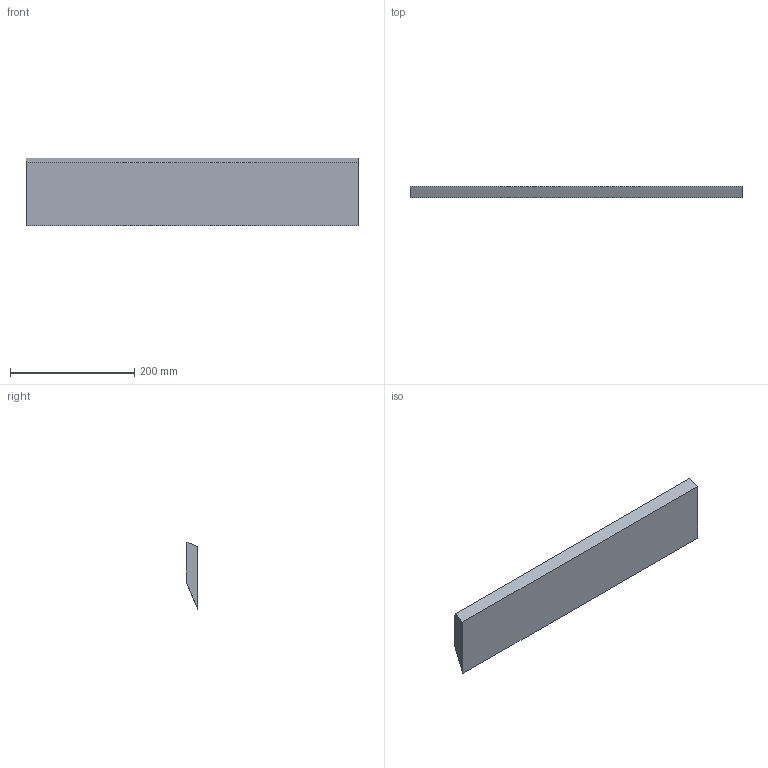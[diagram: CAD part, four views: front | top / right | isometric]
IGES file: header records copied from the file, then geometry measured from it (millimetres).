
Start section:  PTC IGES file: C:\Documents and Settings\Brad\Desktop\IGES\panel_top_co rner_end.igs
Global section: file name: C:\Documents and Settings\Brad\Desktop\IGES\panel_top_corner_end.igs; native system: Brad by Parametric Technology Corporation; preprocessor: 2003250; author: Unknown; organization: PTC; date: 040521.142625; units: inch
Bounding box: 533.4 x 19.05 x 108.89 mm (x, y, z)
Volume: 837226.6 mm3; surface area: 127751 mm2
Topology: 1 solids, 1 shells, 7 faces, 15 edges, 10 vertices
Faces by surface type: bspline 7
